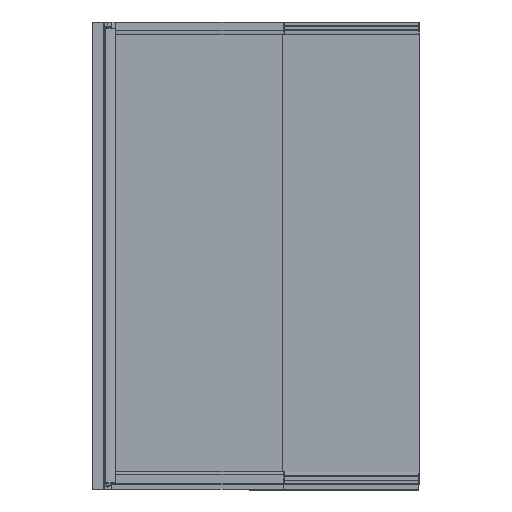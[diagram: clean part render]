
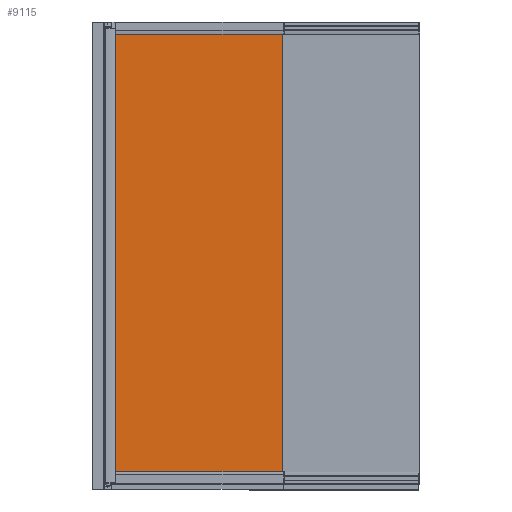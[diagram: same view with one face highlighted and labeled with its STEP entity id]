
A CAD part, front view. The second image highlights one B-rep face of the part: STEP entity #9115.
In plain terms, the highlighted planar face has unit normal (0, -1, 0).
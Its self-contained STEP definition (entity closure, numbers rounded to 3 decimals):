
#9115=ADVANCED_FACE('',(#14231),#13109,.T.);
#13109=PLANE('',#67887);
#14231=FACE_OUTER_BOUND('',#18018,.T.);
#18018=EDGE_LOOP('',(#22248,#22249,#22250,#22251));
#22248=ORIENTED_EDGE('',*,*,#48769,.T.);
#22249=ORIENTED_EDGE('',*,*,#48765,.T.);
#22250=ORIENTED_EDGE('',*,*,#48770,.F.);
#22251=ORIENTED_EDGE('',*,*,#48771,.T.);
#42400=VERTEX_POINT('',#94271);
#42401=VERTEX_POINT('',#94272);
#42404=VERTEX_POINT('',#94280);
#42405=VERTEX_POINT('',#94282);
#48765=EDGE_CURVE('',#42400,#42401,#58843,.T.);
#48769=EDGE_CURVE('',#42404,#42400,#58847,.T.);
#48770=EDGE_CURVE('',#42405,#42401,#58848,.T.);
#48771=EDGE_CURVE('',#42405,#42404,#58849,.T.);
#58843=LINE('',#94270,#63356);
#58847=LINE('',#94279,#63360);
#58848=LINE('',#94281,#63361);
#58849=LINE('',#94283,#63362);
#63356=VECTOR('',#75172,1.);
#63360=VECTOR('',#75178,1.);
#63361=VECTOR('',#75179,1.);
#63362=VECTOR('',#75180,1.);
#67887=AXIS2_PLACEMENT_3D('',#94284,#75181,#75182);
#75172=DIRECTION('',(-1.,0.,0.));
#75178=DIRECTION('',(0.,0.,1.));
#75179=DIRECTION('',(0.,0.,1.));
#75180=DIRECTION('',(1.,0.,0.));
#75181=DIRECTION('',(0.,-1.,0.));
#75182=DIRECTION('',(0.,0.,-1.));
#94270=CARTESIAN_POINT('',(314.604,8.15,1373.001));
#94271=CARTESIAN_POINT('',(569.604,8.15,1373.001));
#94272=CARTESIAN_POINT('',(59.604,8.15,1373.001));
#94279=CARTESIAN_POINT('',(569.604,8.15,44.001));
#94280=CARTESIAN_POINT('',(569.604,8.15,44.001));
#94281=CARTESIAN_POINT('',(59.604,8.15,44.001));
#94282=CARTESIAN_POINT('',(59.604,8.15,44.001));
#94283=CARTESIAN_POINT('',(314.604,8.15,44.001));
#94284=CARTESIAN_POINT('',(314.604,8.15,44.001));
